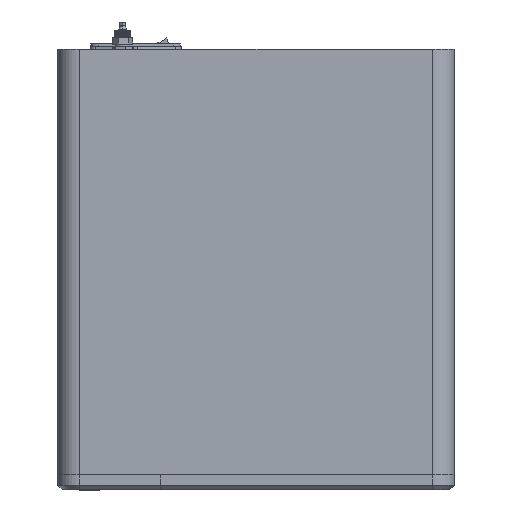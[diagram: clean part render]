
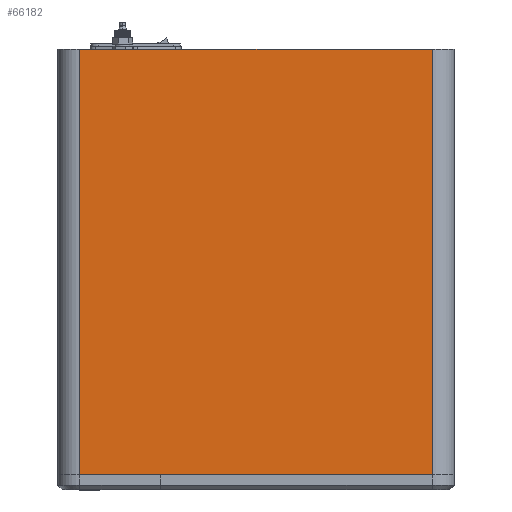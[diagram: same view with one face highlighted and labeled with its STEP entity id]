
A CAD part, top view. The second image highlights one B-rep face of the part: STEP entity #66182.
In plain terms, the highlighted planar face has unit normal (0, 0, 1).
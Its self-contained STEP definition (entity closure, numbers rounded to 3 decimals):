
#386 = LINE ( 'NONE', #45961, #68305 ) ;
#812 = EDGE_CURVE ( 'NONE', #21009, #42762, #51911, .T. ) ;
#3827 = VERTEX_POINT ( 'NONE', #22334 ) ;
#6929 = EDGE_CURVE ( 'NONE', #3827, #21009, #386, .T. ) ;
#6981 = CARTESIAN_POINT ( 'NONE',  ( -15., 290., 0. ) ) ;
#12603 = ORIENTED_EDGE ( 'NONE', *, *, #812, .F. ) ;
#12912 = PLANE ( 'NONE',  #43167 ) ;
#14802 = DIRECTION ( 'NONE',  ( 0., -1., 0. ) ) ;
#15117 = DIRECTION ( 'NONE',  ( 1., 0., 0. ) ) ;
#17574 = DIRECTION ( 'NONE',  ( 0., -1., 0. ) ) ;
#20999 = VECTOR ( 'NONE', #17574, 1000. ) ;
#21009 = VERTEX_POINT ( 'NONE', #6981 ) ;
#22334 = CARTESIAN_POINT ( 'NONE',  ( -255., 290., 0. ) ) ;
#26616 = ORIENTED_EDGE ( 'NONE', *, *, #46955, .T. ) ;
#29124 = CARTESIAN_POINT ( 'NONE',  ( -255., 290., 0. ) ) ;
#32584 = EDGE_LOOP ( 'NONE', ( #78481, #12603, #53524, #26616 ) ) ;
#33212 = LINE ( 'NONE', #63457, #33992 ) ;
#33992 = VECTOR ( 'NONE', #15117, 1000. ) ;
#37297 = LINE ( 'NONE', #29124, #20999 ) ;
#42762 = VERTEX_POINT ( 'NONE', #60033 ) ;
#43167 = AXIS2_PLACEMENT_3D ( 'NONE', #61785, #74093, #68778 ) ;
#43984 = CARTESIAN_POINT ( 'NONE',  ( -255., 0., 0. ) ) ;
#45036 = VERTEX_POINT ( 'NONE', #43984 ) ;
#45961 = CARTESIAN_POINT ( 'NONE',  ( -15., 290., 0. ) ) ;
#46955 = EDGE_CURVE ( 'NONE', #3827, #45036, #37297, .T. ) ;
#51911 = LINE ( 'NONE', #69593, #60458 ) ;
#53524 = ORIENTED_EDGE ( 'NONE', *, *, #6929, .F. ) ;
#60033 = CARTESIAN_POINT ( 'NONE',  ( -15., 0., 0. ) ) ;
#60458 = VECTOR ( 'NONE', #14802, 1000. ) ;
#61785 = CARTESIAN_POINT ( 'NONE',  ( -15., 290., 0. ) ) ;
#63457 = CARTESIAN_POINT ( 'NONE',  ( -15., 0., 0. ) ) ;
#66182 = ADVANCED_FACE ( 'NONE', ( #68185 ), #12912, .F. ) ;
#68185 = FACE_OUTER_BOUND ( 'NONE', #32584, .T. ) ;
#68305 = VECTOR ( 'NONE', #69489, 1000. ) ;
#68778 = DIRECTION ( 'NONE',  ( -1., 0., 0. ) ) ;
#69489 = DIRECTION ( 'NONE',  ( 1., 0., 0. ) ) ;
#69593 = CARTESIAN_POINT ( 'NONE',  ( -15., 290., 0. ) ) ;
#71953 = EDGE_CURVE ( 'NONE', #45036, #42762, #33212, .T. ) ;
#74093 = DIRECTION ( 'NONE',  ( 0., 0., -1. ) ) ;
#78481 = ORIENTED_EDGE ( 'NONE', *, *, #71953, .T. ) ;
